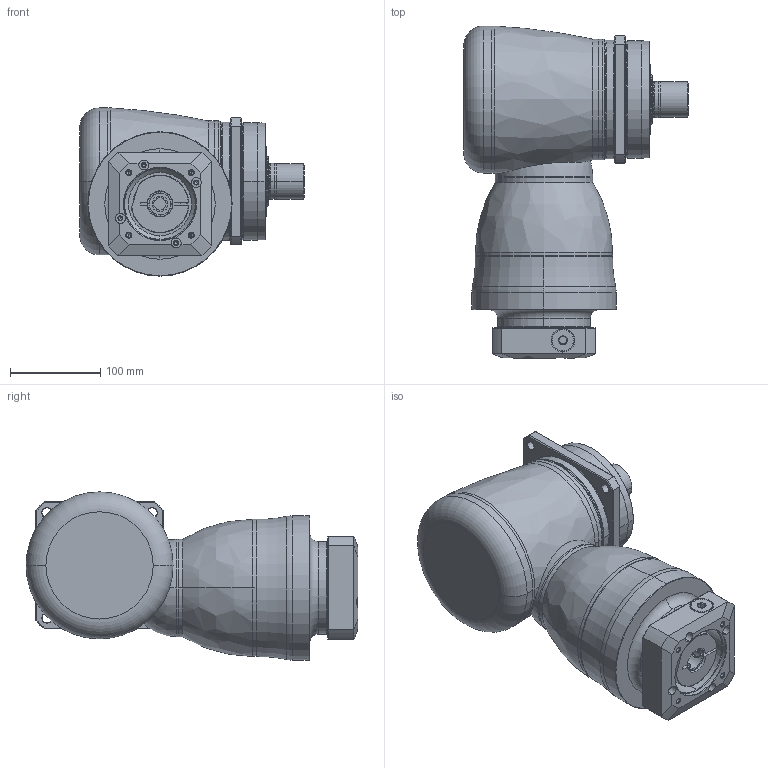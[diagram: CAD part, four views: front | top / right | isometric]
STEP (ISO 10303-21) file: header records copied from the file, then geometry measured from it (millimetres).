
FILE_DESCRIPTION((''),'2;1');
FILE_NAME('KF140_S3_2ST_24-P0409500101_ASM','2016-07-07T',('d01943'),(''),'PRO/ENGINEER BY PARAMETRIC TECHNOLOGY CORPORATION, 2008410','PRO/ENGINEER BY PARAMETRIC TECHNOLOGY CORPORATION, 2008410','');
FILE_SCHEMA(('CONFIG_CONTROL_DESIGN'));
Length unit declared in the file: millimetre
Products named in the file (11): P1008500002; P1804500001; P0915502001; P1315500001; P1007500001; P1317500101; P0409500101; P0503500010; P0912401001; 21711418017; KF140_S3_2ST_24-P0409500101_ASM
Assembly tree (10 placements, depth 2):
  KF140_S3_2ST_24-P0409500101_ASM
    P1008500002
    P1804500001
    P0915502001
    P1315500001
    P1007500001
    P1317500101
    P0409500101
    P0503500010
    P0912401001
    21711418017
Bounding box: 249 x 368 x 186.5 mm (x, y, z)
Volume: 6349613 mm3; surface area: 499148.5 mm2
Topology: 11 solids, 11 shells, 471 faces, 1062 edges, 627 vertices
Faces by surface type: cylinder 160, cone 130, plane 96, torus 64, bspline 19, sphere 2
Entity records: 18292 total; most frequent: CARTESIAN_POINT 7497, DIRECTION 2395, ORIENTED_EDGE 2084, EDGE_CURVE 1042, AXIS2_PLACEMENT_3D 1013, VERTEX_POINT 627, CIRCLE 540, EDGE_LOOP 537
